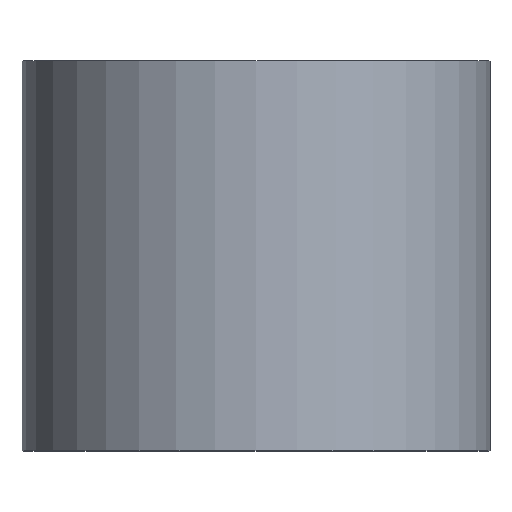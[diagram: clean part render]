
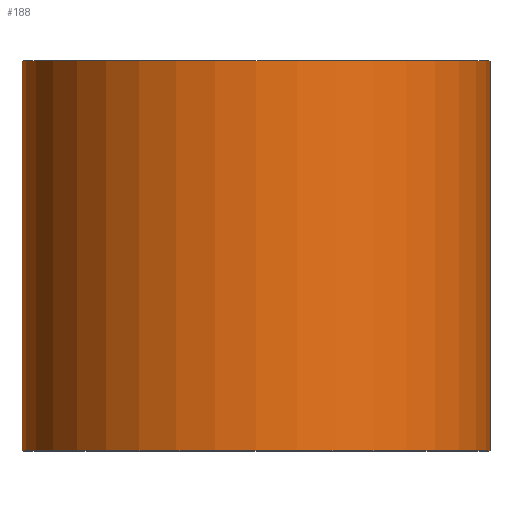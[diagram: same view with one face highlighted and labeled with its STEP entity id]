
A CAD part, top view. The second image highlights one B-rep face of the part: STEP entity #188.
In plain terms, the highlighted cylindrical face has radius 6 mm (diameter 12 mm), a partial arc.
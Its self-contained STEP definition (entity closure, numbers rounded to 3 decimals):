
#6 = ORIENTED_EDGE ( 'NONE', *, *, #262, .F. ) ;
#7 = CARTESIAN_POINT ( 'NONE',  ( 0., 0., 0. ) ) ;
#10 = EDGE_CURVE ( 'NONE', #208, #186, #170, .T. ) ;
#26 = FACE_OUTER_BOUND ( 'NONE', #44, .T. ) ;
#32 = DIRECTION ( 'NONE',  ( 0., 1., 0. ) ) ;
#43 = CARTESIAN_POINT ( 'NONE',  ( -6., 10., 0. ) ) ;
#44 = EDGE_LOOP ( 'NONE', ( #177, #300, #198, #6 ) ) ;
#56 = DIRECTION ( 'NONE',  ( -1., 0., 0. ) ) ;
#95 = CYLINDRICAL_SURFACE ( 'NONE', #258, 6. ) ;
#110 = CARTESIAN_POINT ( 'NONE',  ( 0., 0., 0. ) ) ;
#112 = CARTESIAN_POINT ( 'NONE',  ( 0., 10., 0. ) ) ;
#113 = EDGE_CURVE ( 'NONE', #186, #173, #139, .T. ) ;
#124 = CARTESIAN_POINT ( 'NONE',  ( 6., 10., 0. ) ) ;
#129 = CARTESIAN_POINT ( 'NONE',  ( -6., 0., 0. ) ) ;
#139 = LINE ( 'NONE', #189, #253 ) ;
#144 = CARTESIAN_POINT ( 'NONE',  ( 6., 0., 0. ) ) ;
#170 = CIRCLE ( 'NONE', #233, 6. ) ;
#173 = VERTEX_POINT ( 'NONE', #124 ) ;
#175 = LINE ( 'NONE', #129, #205 ) ;
#177 = ORIENTED_EDGE ( 'NONE', *, *, #10, .T. ) ;
#185 = DIRECTION ( 'NONE',  ( -1., 0., 0. ) ) ;
#186 = VERTEX_POINT ( 'NONE', #144 ) ;
#188 = ADVANCED_FACE ( 'NONE', ( #26 ), #95, .T. ) ;
#189 = CARTESIAN_POINT ( 'NONE',  ( 6., 0., 0. ) ) ;
#194 = DIRECTION ( 'NONE',  ( 0., 1., 0. ) ) ;
#198 = ORIENTED_EDGE ( 'NONE', *, *, #292, .F. ) ;
#205 = VECTOR ( 'NONE', #267, 1000. ) ;
#208 = VERTEX_POINT ( 'NONE', #215 ) ;
#215 = CARTESIAN_POINT ( 'NONE',  ( -6., 0., 0. ) ) ;
#233 = AXIS2_PLACEMENT_3D ( 'NONE', #110, #274, #295 ) ;
#237 = CIRCLE ( 'NONE', #266, 6. ) ;
#253 = VECTOR ( 'NONE', #194, 1000. ) ;
#258 = AXIS2_PLACEMENT_3D ( 'NONE', #7, #32, #56 ) ;
#262 = EDGE_CURVE ( 'NONE', #208, #287, #175, .T. ) ;
#266 = AXIS2_PLACEMENT_3D ( 'NONE', #112, #272, #185 ) ;
#267 = DIRECTION ( 'NONE',  ( 0., 1., 0. ) ) ;
#272 = DIRECTION ( 'NONE',  ( 0., 1., 0. ) ) ;
#274 = DIRECTION ( 'NONE',  ( 0., 1., 0. ) ) ;
#287 = VERTEX_POINT ( 'NONE', #43 ) ;
#292 = EDGE_CURVE ( 'NONE', #287, #173, #237, .T. ) ;
#295 = DIRECTION ( 'NONE',  ( -1., 0., 0. ) ) ;
#300 = ORIENTED_EDGE ( 'NONE', *, *, #113, .T. ) ;
